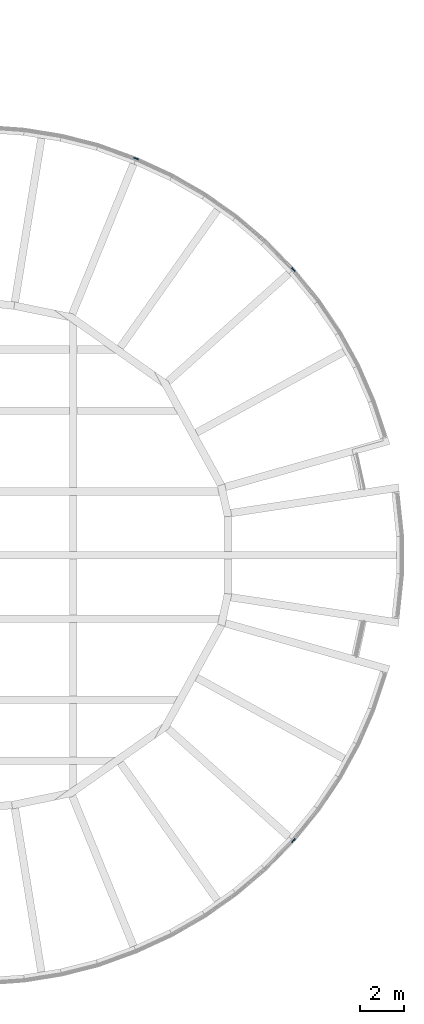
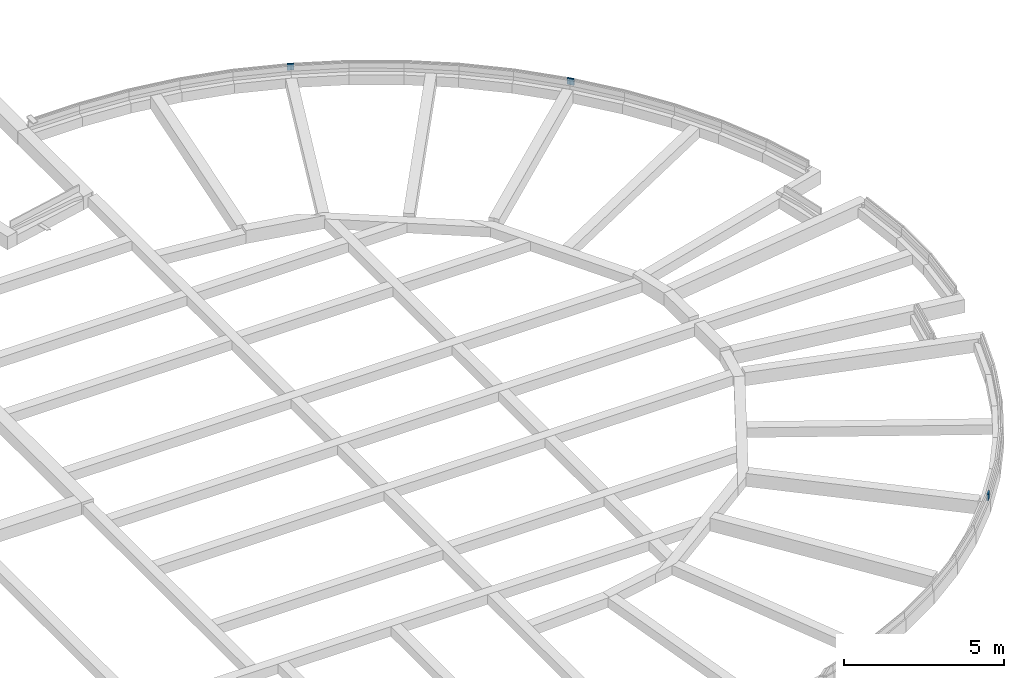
# One storey, part 8 of 11: 3 walls.
"""IFC2X3 building model written with IfcOpenShell, lengths in millimetres."""

from ifc_helpers import new_model, entity, si_unit, converted_unit, derived_unit, direction, frame, origin, place, context, subcontext, project, spatial, polyline, outline, extrude, material, layer, layer_set, layer_usage, type_object, element, save


model = new_model("IFC2X3")

# Units and contexts
model_context = context("Model", 3, precision=0.01, world=origin(), true_north=direction((6.12303176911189e-17, 1.0)))
body_context = subcontext(model_context, "Body", "Model", "MODEL_VIEW")
ifc_project = project(units=[si_unit("LENGTHUNIT", "METRE", prefix="MILLI"), si_unit("AREAUNIT", "SQUARE_METRE"), si_unit("VOLUMEUNIT", "CUBIC_METRE"), converted_unit("PLANEANGLEUNIT", "DEGREE", entity("IfcRatioMeasure", 0.0174532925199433), si_unit("PLANEANGLEUNIT", "RADIAN"), dimensions=[0, 0, 0, 0, 0, 0, 0]), si_unit("MASSUNIT", "GRAM", prefix="KILO"), derived_unit("MASSDENSITYUNIT", [(si_unit("MASSUNIT", "GRAM", prefix="KILO"), 1), (si_unit("LENGTHUNIT", "METRE"), -3)]), derived_unit("MOMENTOFINERTIAUNIT", [(si_unit("LENGTHUNIT", "METRE"), 4)]), si_unit("TIMEUNIT", "SECOND"), si_unit("FREQUENCYUNIT", "HERTZ"), si_unit("THERMODYNAMICTEMPERATUREUNIT", "DEGREE_CELSIUS"), derived_unit("THERMALTRANSMITTANCEUNIT", [(si_unit("MASSUNIT", "GRAM", prefix="KILO"), 1), (si_unit("THERMODYNAMICTEMPERATUREUNIT", "KELVIN"), -1), (si_unit("TIMEUNIT", "SECOND"), -3)]), derived_unit("VOLUMETRICFLOWRATEUNIT", [(si_unit("LENGTHUNIT", "METRE"), 3), (si_unit("TIMEUNIT", "SECOND"), -1)]), si_unit("ELECTRICCURRENTUNIT", "AMPERE"), si_unit("ELECTRICVOLTAGEUNIT", "VOLT"), si_unit("POWERUNIT", "WATT"), si_unit("FORCEUNIT", "NEWTON", prefix="KILO"), si_unit("ILLUMINANCEUNIT", "LUX"), si_unit("LUMINOUSFLUXUNIT", "LUMEN"), si_unit("LUMINOUSINTENSITYUNIT", "CANDELA"), derived_unit("USERDEFINED", [(si_unit("MASSUNIT", "GRAM", prefix="KILO"), -1), (si_unit("LENGTHUNIT", "METRE"), -2), (si_unit("TIMEUNIT", "SECOND"), 3), (si_unit("LUMINOUSFLUXUNIT", "LUMEN"), 1)]), derived_unit("LINEARVELOCITYUNIT", [(si_unit("LENGTHUNIT", "METRE"), 1), (si_unit("TIMEUNIT", "SECOND"), -1)]), si_unit("PRESSUREUNIT", "PASCAL"), derived_unit("USERDEFINED", [(si_unit("LENGTHUNIT", "METRE"), -2), (si_unit("MASSUNIT", "GRAM", prefix="KILO"), 1), (si_unit("TIMEUNIT", "SECOND"), -2)]), derived_unit("LINEARFORCEUNIT", [(si_unit("MASSUNIT", "GRAM", prefix="KILO"), 1), (si_unit("LENGTHUNIT", "METRE"), 1), (si_unit("TIMEUNIT", "SECOND"), -2), (si_unit("LENGTHUNIT", "METRE"), -1)]), derived_unit("PLANARFORCEUNIT", [(si_unit("MASSUNIT", "GRAM", prefix="KILO"), 1), (si_unit("LENGTHUNIT", "METRE"), 1), (si_unit("TIMEUNIT", "SECOND"), -2), (si_unit("LENGTHUNIT", "METRE"), -2)])], contexts=[model_context])

# Site, building, storey
site_placement = place(None, origin())
site = spatial("IfcSite", under=ifc_project, at=site_placement, Name="Default", CompositionType="ELEMENT")
building_placement = place(site_placement, origin())
building = spatial("IfcBuilding", under=site, at=building_placement, Name="-", CompositionType="ELEMENT")
storey_placement = place(building_placement, frame((0.0, 0.0, -780.0)))
storey = spatial("IfcBuildingStorey", under=building, at=storey_placement, Name="ok. fundering", CompositionType="ELEMENT", Elevation=-780.0)

# Walls
ifc_material = material(Name="NLRS_g2_baksteen  rood genuanceerd Klamp")
ifc_layer = layer(ifc_material, 50.0)
ifc_layer_set = layer_set([ifc_layer], Name="Basic Wall:NLRS_20_WA_Metselwerk klamp, Eems wf-p-0081-25")
ifc_layer_usage_1 = layer_usage(ifc_layer_set, "AXIS2", "NEGATIVE", 25.0)
wall_type = type_object("IfcWallType", Name="Basic Wall:NLRS_20_WA_Metselwerk klamp, Eems wf-p-0081-25", PredefinedType="STANDARD", material=ifc_layer_set)
wall_1_placement = place(storey_placement, frame((58136.9966607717, 37648.1802540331, 500.0), z_axis=(0.0, 0.0, 1.0), x_axis=(-0.925815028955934, 0.37797689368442, 0.0)))
element("IfcWallStandardCase", 1, at=wall_1_placement, inside=storey, type_object=wall_type, material=ifc_layer_usage_1, Name="Basic Wall:NLRS_20_WA_Metselwerk klamp, Eems wf-p-0081-25", ObjectType="Basic Wall:NLRS_20_WA_Metselwerk klamp, Eems wf-p-0081-25", context=body_context, shape_type="SweptSolid", body=[
    extrude(outline(polyline([(223.254421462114, -25.0), (222.237388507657, 25.0), (1.13340855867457, 25.0), (0.0, -25.0), (223.254421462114, -25.0)])), origin(), (0.0, 0.0, 1.0), 240.0),
])
ifc_layer_usage_2 = layer_usage(ifc_layer_set, "AXIS2", "NEGATIVE", 25.0)
wall_2_placement = place(storey_placement, frame((65279.8175964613, 32543.9527565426, 500.0), z_axis=(0.0, 0.0, 1.0), x_axis=(-0.666412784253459, 0.745582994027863, 0.0)))
element("IfcWallStandardCase", 2, at=wall_2_placement, inside=storey, type_object=wall_type, material=ifc_layer_usage_2, Name="Basic Wall:NLRS_20_WA_Metselwerk klamp, Eems wf-p-0081-25", ObjectType="Basic Wall:NLRS_20_WA_Metselwerk klamp, Eems wf-p-0081-25", context=body_context, shape_type="SweptSolid", body=[
    extrude(outline(polyline([(228.105880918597, -25.0), (226.9709922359, 25.0), (1.13171151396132, 25.0), (0.0, -25.0), (228.105880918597, -25.0)])), origin(), (0.0, 0.0, 1.0), 239.99999999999),
])
ifc_layer_usage_3 = layer_usage(ifc_layer_set, "AXIS2", "NEGATIVE", 25.0)
wall_3_placement = place(storey_placement, frame((65127.6918320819, 6517.97942081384, 500.0), z_axis=(0.0, 0.0, 1.0), x_axis=(0.666460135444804, 0.74554066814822, 0.0)))
element("IfcWallStandardCase", 3, at=wall_3_placement, inside=storey, type_object=wall_type, material=ifc_layer_usage_3, Name="Basic Wall:NLRS_20_WA_Metselwerk klamp, Eems wf-p-0081-25", ObjectType="Basic Wall:NLRS_20_WA_Metselwerk klamp, Eems wf-p-0081-25", context=body_context, shape_type="SweptSolid", body=[
    extrude(outline(polyline([(228.112472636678, -25.0), (226.979172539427, 25.0), (1.13330009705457, 25.0), (0.0, -25.0), (228.112472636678, -25.0)])), origin(), (0.0, 0.0, 1.0), 239.99999999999),
])

save(model, "model.ifc")
